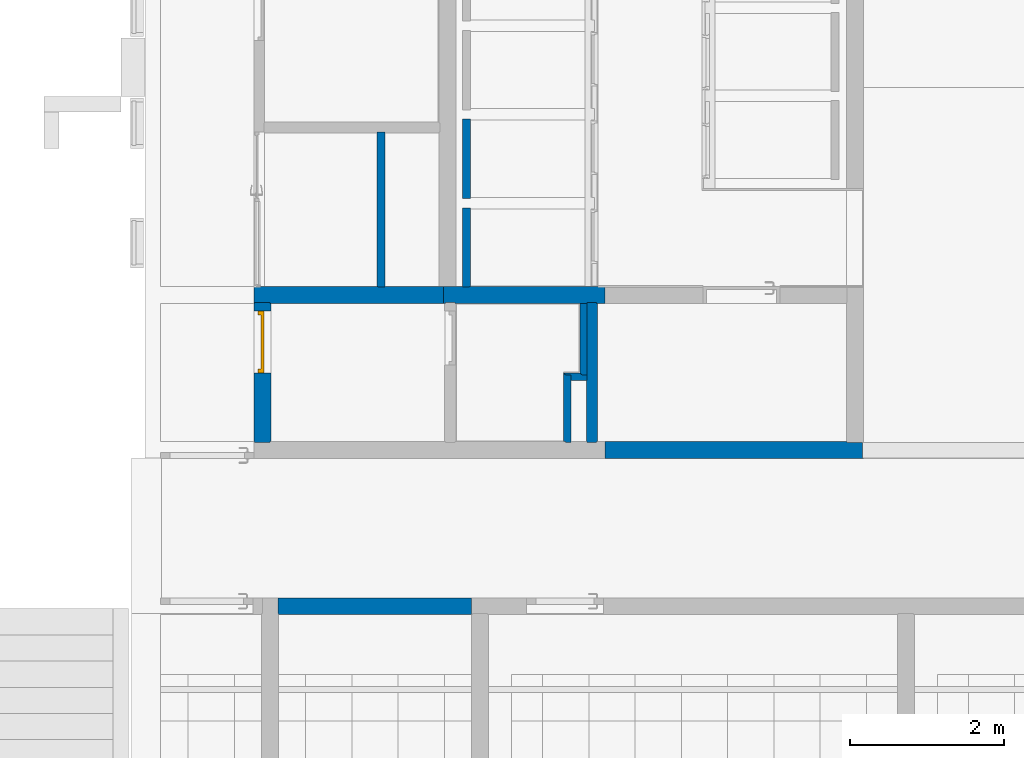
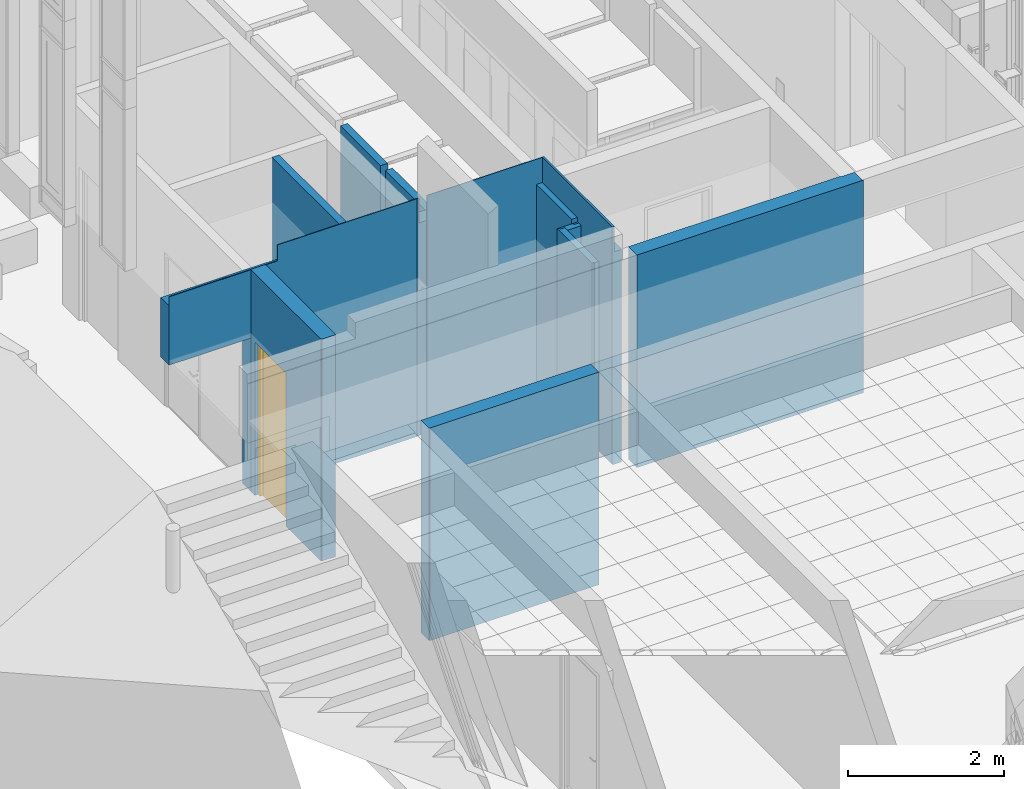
# One storey, part 116 of 246: 12 walls, 1 door, 2 openings.
"""IFC2X3 building model written with IfcOpenShell, lengths in millimetres."""

from ifc_helpers import new_model, entity, si_unit, converted_unit, derived_unit, money_unit, direction, frame, origin_with_axes, place, context, subcontext, project, spatial, faceted_brep, material, material_list, type_object, element, fill, save


model = new_model("IFC2X3")

# Units and contexts
model_context = context("Model", 3, precision=0.01, world=origin_with_axes(), true_north=direction((0.0, 1.0)))
body_context = subcontext(model_context, "Body", "Model", "MODEL_VIEW")
ifc_project = project(units=[si_unit("LENGTHUNIT", "METRE", prefix="MILLI"), si_unit("AREAUNIT", "SQUARE_METRE"), si_unit("VOLUMEUNIT", "CUBIC_METRE"), converted_unit("PLANEANGLEUNIT", "DEGREE", entity("IfcPlaneAngleMeasure", 0.0174532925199), si_unit("PLANEANGLEUNIT", "RADIAN"), dimensions=[0, 0, 0, 0, 0, 0, 0]), si_unit("SOLIDANGLEUNIT", "STERADIAN"), money_unit("EUR"), converted_unit("TIMEUNIT", "Year", entity("IfcTimeMeasure", 31556926.0), si_unit("TIMEUNIT", "SECOND"), dimensions=[0, 0, 1, 0, 0, 0, 0]), si_unit("MASSUNIT", "GRAM", prefix="KILO"), si_unit("THERMODYNAMICTEMPERATUREUNIT", "DEGREE_CELSIUS"), si_unit("LUMINOUSINTENSITYUNIT", "LUMEN"), si_unit("ENERGYUNIT", "JOULE", prefix="MEGA"), derived_unit("THERMALCONDUCTANCEUNIT", [(si_unit("POWERUNIT", "WATT"), 1), (si_unit("LENGTHUNIT", "METRE"), -1), (si_unit("THERMODYNAMICTEMPERATUREUNIT", "KELVIN"), -1)]), derived_unit("SPECIFICHEATCAPACITYUNIT", [(si_unit("ENERGYUNIT", "JOULE"), 1), (si_unit("MASSUNIT", "GRAM", prefix="KILO"), -1), (si_unit("THERMODYNAMICTEMPERATUREUNIT", "KELVIN"), -1)]), derived_unit("MASSDENSITYUNIT", [(si_unit("MASSUNIT", "GRAM", prefix="KILO"), 1), (si_unit("VOLUMEUNIT", "CUBIC_METRE"), -1)])], contexts=[model_context])

# Site, building, storey
site_placement = place(None, origin_with_axes())
site = spatial("IfcSite", under=ifc_project, at=site_placement, Name="L.Koidula tn 11b", CompositionType="ELEMENT")
building_placement = place(site_placement, origin_with_axes())
building = spatial("IfcBuilding", under=site, at=building_placement, Name="Rakvere Riigigümnaasium", CompositionType="ELEMENT")
storey_placement = place(building_placement, origin_with_axes())
storey = spatial("IfcBuildingStorey", under=building, at=storey_placement, Name="1.korrus 0,00", CompositionType="ELEMENT", Elevation=0.0)

# Wall
ifc_material_1 = material(Name="siseviimistlus-seinad")
ifc_material_2 = material(Name="Betoon element / plaat")
ifc_material_list_1 = material_list([ifc_material_1, ifc_material_2, ifc_material_1])
wall_type_1 = type_object("IfcWallType", Name="SS-01-2 220", PredefinedType="NOTDEFINED")
wall_1_placement = place(storey_placement, frame((41260.0009795, 17110.4555123, 0.0), z_axis=(0.0, 0.0, 1.0), x_axis=(-1.0, 0.0, 0.0)))
element("IfcWall", 1, at=wall_1_placement, inside=storey, type_object=wall_type_1, material=ifc_material_list_1, Name="Sisesein", context=body_context, shape_type="Brep", body=[
    faceted_brep([(2064.99369389, 0.0, 3720.0), (2089.9936915, 0.0, 3720.0), (2089.9936915, 10.0, 3720.0), (2064.99369389, 10.0, 3720.0), (2064.99369389, 0.0, 0.0), (2089.9936915, 0.0, 0.0), (2089.9936915, 10.0, 0.0), (2064.99369389, 10.0, 0.0)], [[[0, 1, 2, 3]], [[4, 5, 1, 0]], [[2, 1, 5, 6]], [[3, 2, 6, 7]], [[4, 0, 3, 7]], [[7, 6, 5, 4]]]),
    faceted_brep([(1944.99369389, 0.0, 3720.0), (1944.99369389, 10.0, 3720.0), (229.993662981, 10.0, 3720.0), (229.993662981, 0.0, 3720.0), (1944.99369389, 0.0, 0.0), (1944.99369389, 10.0, 0.0), (229.993662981, 10.0, 0.0), (229.993662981, 0.0, 0.0)], [[[0, 1, 2, 3]], [[1, 0, 4, 5]], [[1, 5, 6, 2]], [[7, 3, 2, 6]], [[4, 0, 3, 7]], [[5, 4, 7, 6]]]),
    faceted_brep([(109.993662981, 0.0, 3325.0), (0.0, 0.0, 3325.0), (0.0, 0.0, 0.0), (109.993662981, 0.0, 0.0), (0.0, 10.0, 3325.0), (109.993662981, 10.0, 3325.0), (0.0, 10.0, 0.0), (109.993662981, 10.0, 0.0)], [[[0, 1, 2, 3]], [[4, 1, 0, 5]], [[1, 4, 6, 2]], [[7, 3, 2, 6]], [[5, 0, 3, 7]], [[4, 5, 7, 6]]]),
    faceted_brep([(0.0, -200.0, 3325.0), (0.0, -200.0, 0.0), (2089.9936915, -200.0, 0.0), (2089.9936915, -200.0, 3325.0), (0.0, 0.0, 3325.0), (0.0, 0.0, 0.0), (2089.9936915, 0.0, 0.0), (2089.9936915, -3.94920256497e-05, 3325.0), (209.999935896, -3.94920256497e-05, 3325.0)], [[[0, 1, 2, 3]], [[0, 4, 5, 1]], [[5, 6, 2, 1]], [[7, 3, 2, 6]], [[8, 4, 0, 3, 7]], [[8, 7, 6, 5, 4]]]),
    faceted_brep([(131.993662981, -210.0, 3325.0), (0.0, -210.0, 3325.0), (0.0, -210.0, 0.0), (1755.0009436, -210.0, 0.0), (1755.0009436, -210.0, 3325.0), (226.993662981, -210.0, 3325.0), (226.993662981, -210.0, 2400.0), (131.993662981, -210.0, 2400.0), (0.0, -200.0, 3325.0), (131.993662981, -200.0, 3325.0), (0.0, -200.0, 0.0), (1755.0009436, -200.0, 0.0), (1755.0009436, -200.0, 3325.0), (226.993662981, -200.0, 3325.0), (226.993662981, -200.0, 2400.0), (131.993662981, -200.0, 2400.0)], [[[0, 1, 2, 3, 4, 5, 6, 7]], [[8, 1, 0, 9]], [[1, 8, 10, 2]], [[10, 11, 3, 2]], [[12, 4, 3, 11]], [[13, 5, 4, 12]], [[5, 13, 14, 6]], [[15, 7, 6, 14]], [[9, 0, 7, 15]], [[8, 9, 15, 14, 13, 12, 11, 10]]]),
    faceted_brep([(2089.9936915, -210.0, 3325.0), (1846.5009436, -210.0, 3325.0), (1846.5009436, -210.0, 0.0), (2089.9936915, -210.0, 0.0), (1846.5009436, -200.0, 3325.0), (2089.9936915, -200.0, 3325.0), (1846.5009436, -200.0, 0.0), (2089.9936915, -200.0, 0.0)], [[[0, 1, 2, 3]], [[4, 1, 0, 5]], [[1, 4, 6, 2]], [[6, 7, 3, 2]], [[5, 0, 3, 7]], [[4, 5, 7, 6]]]),
])

# Wall, opening
wall_2_placement = place(storey_placement, frame((39170.007288, 17110.4555123, 0.0), z_axis=(0.0, 0.0, 1.0), x_axis=(-1.0, 0.0, 0.0)))
wall_2 = element("IfcWall", 2, at=wall_2_placement, inside=storey, type_object=wall_type_1, material=ifc_material_list_1, Name="Sisesein", context=body_context, shape_type="Brep", body=[
    faceted_brep([(2250.00723728, 1.18162937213e-05, 3470.0), (2070.0072867, 1.18162937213e-05, 3470.0), (2070.0072867, 1.18162937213e-05, 3720.0), (0.0, 0.0, 3720.0), (0.0, 0.0, 0.0), (2250.00723728, 0.0, 0.0), (2250.00723728, 10.00000065, 3470.0), (2070.0072867, 10.00000065, 3470.0), (2070.0072867, 10.00000065, 3719.99998381), (0.0, 10.0, 3720.0), (0.0, 10.0, 0.0), (2250.00723728, 10.0, 0.0)], [[[0, 1, 2, 3, 4, 5]], [[1, 0, 6, 7]], [[8, 2, 1, 7]], [[2, 8, 9, 3]], [[4, 3, 9, 10]], [[11, 5, 4, 10]], [[6, 0, 5, 11]], [[7, 6, 11, 10, 9, 8]]]),
    faceted_brep([(2460.00723728, 1.18162937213e-05, 2400.0), (3670.00723586, 8.17265188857e-06, 2400.0), (3670.00723586, 1.18162937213e-05, 3470.0), (2450.00723728, 1.18162937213e-05, 3470.0), (2450.00723728, 0.0, 0.0), (2460.00723728, 0.0, 0.0), (2460.00723728, 10.00000065, 2400.0), (3670.00723586, 10.0000004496, 2400.0), (3670.00723586, 10.00000065, 3470.0), (2450.00723728, 10.00000065, 3470.0), (2450.00723728, 10.0, 0.0), (2460.00723728, 10.0, 0.0)], [[[0, 1, 2, 3, 4, 5]], [[1, 0, 6, 7]], [[1, 7, 8, 2]], [[3, 2, 8, 9]], [[9, 10, 4, 3]], [[11, 5, 4, 10]], [[0, 5, 11, 6]], [[6, 11, 10, 9, 8, 7]]]),
    faceted_brep([(2460.00723728, -200.0, 2400.0), (3670.00723586, -200.0, 2400.0), (3670.00723586, -200.0, 3325.0), (0.0, -200.0, 3325.0), (0.0, -200.0, 0.0), (2460.00723728, -200.0, 0.0), (2460.00723728, -3.94920256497e-05, 2400.0), (3670.00723586, -2.85055214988e-05, 2400.0), (3670.00723586, -3.94920256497e-05, 3325.0), (0.0, -3.94920256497e-05, 3325.0), (0.0, 0.0, 0.0), (2460.00723728, 0.0, 0.0)], [[[0, 1, 2, 3, 4, 5]], [[1, 0, 6, 7]], [[1, 7, 8, 2]], [[3, 2, 8, 9]], [[9, 10, 4, 3]], [[11, 5, 4, 10]], [[0, 5, 11, 6]], [[6, 11, 10, 9, 8, 7]]]),
    faceted_brep([(2460.00723728, -210.0, 2400.0), (3670.00723586, -210.0, 2400.0), (3670.00723586, -210.0, 3325.0), (851.500002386, -210.0, 3325.0), (851.500002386, -210.0, 0.0), (2460.00723728, -210.0, 0.0), (2460.00723728, -200.0, 2400.0), (3670.00723586, -200.0, 2400.0), (3670.00723586, -200.0, 3325.0), (851.500002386, -200.0, 3325.0), (851.500002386, -200.0, 0.0), (2460.00723728, -200.0, 0.0)], [[[0, 1, 2, 3, 4, 5]], [[1, 0, 6, 7]], [[1, 7, 8, 2]], [[3, 2, 8, 9]], [[9, 10, 4, 3]], [[11, 5, 4, 10]], [[0, 5, 11, 6]], [[6, 11, 10, 9, 8, 7]]]),
    faceted_brep([(760.000002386, -210.0, 3325.0), (0.0, -210.0, 3325.0), (0.0, -210.0, 0.0), (760.000002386, -210.0, 0.0), (0.0, -200.0, 3325.0), (760.000002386, -200.0, 3325.0), (0.0, -200.0, 0.0), (760.000002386, -200.0, 0.0)], [[[0, 1, 2, 3]], [[4, 1, 0, 5]], [[1, 4, 6, 2]], [[7, 3, 2, 6]], [[5, 0, 3, 7]], [[4, 5, 7, 6]]]),
])
opening_1_placement = place(wall_2_placement, frame((3065.00723657, 0.0, 0.0), z_axis=(0.0, 0.0, 1.0), x_axis=(1.0, 0.0, 0.0)))
element("IfcOpeningElement", 3, at=opening_1_placement, cuts=wall_2, Name="ava", context=body_context, shape_type="Brep", body=[
    faceted_brep([(604.999999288, 220.0, 0.0), (604.999999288, 220.0, 2400.0), (604.999999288, -440.0, 2400.0), (604.999999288, -440.0, 0.0), (-604.999999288, 220.0, 0.0), (-604.999999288, 220.0, 2400.0), (-604.999999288, -440.0, 2400.0), (-604.999999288, -440.0, 0.0)], [[[0, 1, 2, 3]], [[0, 4, 5, 1]], [[1, 5, 6, 2]], [[3, 2, 6, 7]], [[4, 0, 3, 7]], [[5, 4, 7, 6]]]),
])

# Wall, opening, door
wall_3_placement = place(storey_placement, frame((36710.0000507, 17110.4555123, 0.0), z_axis=(0.0, 0.0, 1.0), x_axis=(0.0, -1.0, 0.0)))
wall_3 = element("IfcWall", 4, at=wall_3_placement, inside=storey, type_object=wall_type_1, material=ifc_material_list_1, Name="Sisesein", context=body_context, shape_type="Brep", body=[
    faceted_brep([(909.999329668, 220.0, 0.0), (909.999329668, 220.0, 2400.0), (109.99932933, 220.0, 2400.0), (109.99932933, 220.0, 0.0), (10.0, 220.0, 0.0), (10.0, 220.0, 3470.0), (1799.97698206, 220.0, 3470.0), (1799.97698206, 220.0, 0.0), (909.999329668, 210.0, 0.0), (909.999329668, 210.0, 2400.0), (109.99932933, 210.0, 2400.0), (109.99932933, 210.0, 0.0), (10.0, 210.0, 0.0), (10.0, 210.0, 3470.0), (1799.97698206, 210.0, 3470.0), (1799.97698206, 210.0, 0.0)], [[[0, 1, 2, 3, 4, 5, 6, 7]], [[1, 0, 8, 9]], [[2, 1, 9, 10]], [[3, 2, 10, 11]], [[3, 11, 12, 4]], [[5, 4, 12, 13]], [[5, 13, 14, 6]], [[14, 15, 7, 6]], [[8, 0, 7, 15]], [[9, 8, 15, 14, 13, 12, 11, 10]]]),
    faceted_brep([(909.999329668, 210.0, 0.0), (909.999329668, 210.0, 2400.0), (109.99932933, 210.0, 2400.0), (109.99932933, 210.0, 0.0), (0.0, 210.0, 0.0), (1.18162937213e-05, 210.0, 3470.0), (1809.97698206, 210.0, 3470.0), (1809.97698206, 210.0, 0.0), (909.999329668, 50.0, 0.0), (909.999329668, 10.0, 0.0), (909.999329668, 10.0, 2400.0), (109.99932933, 10.0, 2400.0), (109.99932933, 50.0, 0.0), (109.99932933, 10.0, 0.0), (0.0, 10.0, 0.0), (1.18162937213e-05, 10.0, 3470.0), (1809.97698206, 10.0, 3470.0), (1809.97698206, 10.0, 0.0)], [[[0, 1, 2, 3, 4, 5, 6, 7]], [[1, 0, 8, 9, 10]], [[2, 1, 10, 11]], [[12, 3, 2, 11, 13]], [[3, 12, 13, 14, 4]], [[4, 14, 15, 5]], [[15, 16, 6, 5]], [[17, 7, 6, 16]], [[8, 0, 7, 17, 9]], [[14, 13, 11, 10, 9, 17, 16, 15]]]),
    faceted_brep([(909.999329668, 10.0, 0.0), (909.999329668, 10.0, 2400.0), (109.99932933, 10.0, 2400.0), (109.99932933, 10.0, 0.0), (10.0, 10.0, 0.0), (10.0, 10.0, 3470.0), (1799.97698206, 10.0, 3470.0), (1799.97698206, 10.0, 0.0), (909.999329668, 0.0, 0.0), (909.999329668, 0.0, 2400.0), (109.99932933, 0.0, 2400.0), (109.99932933, 0.0, 0.0), (10.0, 0.0, 0.0), (10.0, 0.0, 3470.0), (1799.97698206, 0.0, 3470.0), (1799.97698206, 0.0, 0.0)], [[[0, 1, 2, 3, 4, 5, 6, 7]], [[1, 0, 8, 9]], [[2, 1, 9, 10]], [[3, 2, 10, 11]], [[3, 11, 12, 4]], [[5, 4, 12, 13]], [[5, 13, 14, 6]], [[14, 15, 7, 6]], [[8, 0, 7, 15]], [[9, 8, 15, 14, 13, 12, 11, 10]]]),
])
opening_2_placement = place(wall_3_placement, frame((509.999329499, 0.0, 0.0), z_axis=(0.0, 0.0, 1.0), x_axis=(1.0, 0.0, 0.0)))
opening_2 = element("IfcOpeningElement", 5, at=opening_2_placement, cuts=wall_3, Name="SU-011", context=body_context, shape_type="Brep", body=[
    faceted_brep([(-400.000000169, 50.0, 0.0), (-400.000000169, 50.0, 2400.0), (-400.000000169, 440.0, 2400.0), (-400.000000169, 440.0, 0.0), (400.000000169, 50.0, 0.0), (400.000000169, 50.0, 2400.0), (400.000000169, 440.0, 2400.0), (400.000000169, 440.0, 0.0)], [[[0, 1, 2, 3]], [[0, 4, 5, 1]], [[1, 5, 6, 2]], [[3, 2, 6, 7]], [[4, 0, 3, 7]], [[5, 4, 7, 6]]]),
    faceted_brep([(-400.000000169, 50.0, 2400.0), (-400.000000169, 50.0, 0.0), (-400.000000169, -220.0, 0.0), (-400.000000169, -220.0, 2400.0), (400.000000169, 50.0, 2400.0), (400.000000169, 50.0, 0.0), (400.000000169, -220.0, 0.0), (400.000000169, -220.0, 2400.0)], [[[0, 1, 2, 3]], [[0, 4, 5, 1]], [[1, 5, 6, 2]], [[3, 2, 6, 7]], [[4, 0, 3, 7]], [[5, 4, 7, 6]]]),
])
door_style = type_object("IfcDoorStyle", Name="Door 23", ConstructionType="NOTDEFINED", OperationType="SINGLE_SWING_LEFT", ParameterTakesPrecedence=False, Sizeable=False)
door_placement = place(opening_2_placement, frame((-400.000000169, 0.0, 0.0), z_axis=(0.0, 0.0, 1.0), x_axis=(1.0, 0.0, 0.0)))
door = element("IfcDoor", 6, at=door_placement, inside=storey, type_object=door_style, Name="SU-011", ObjectType="DOOR", OverallHeight=2400.0, OverallWidth=800.0, context=body_context, shape_type="Brep", body=[
    faceted_brep([(750.000000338, 90.0, 0.0), (750.000000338, 50.0, 0.0), (750.000000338, 50.0, 2350.0), (750.000000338, 90.0, 2350.0), (762.000000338, 90.0, 0.0), (762.000000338, 130.0, 0.0), (800.000000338, 130.0, 0.0), (800.000000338, 50.0, 0.0), (800.000000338, 50.0, 2350.0), (762.000000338, 90.0, 2350.0), (800.000000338, 130.0, 2350.0), (762.000000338, 130.0, 2350.0)], [[[0, 1, 2, 3]], [[4, 5, 6, 7, 1, 0]], [[1, 7, 8, 2]], [[9, 3, 2, 8, 10, 11]], [[9, 4, 0, 3]], [[11, 5, 4, 9]], [[11, 10, 6, 5]], [[6, 10, 8, 7]]]),
    faceted_brep([(38.0, 90.0, 2350.0), (38.0, 130.0, 2350.0), (0.0, 130.0, 2350.0), (0.0, 50.0, 2350.0), (50.0, 50.0, 2350.0), (50.0, 90.0, 2350.0), (38.0, 90.0, 0.0), (38.0, 130.0, 0.0), (0.0, 130.0, 0.0), (0.0, 50.0, 0.0), (50.0, 50.0, 0.0), (50.0, 90.0, 0.0)], [[[0, 1, 2, 3, 4, 5]], [[0, 6, 7, 1]], [[7, 8, 2, 1]], [[2, 8, 9, 3]], [[3, 9, 10, 4]], [[5, 4, 10, 11]], [[5, 11, 6, 0]], [[6, 11, 10, 9, 8, 7]]]),
    faceted_brep([(762.000000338, 130.0, 2362.0), (38.0, 130.0, 2362.0), (38.0, 130.0, 2350.0), (0.0, 130.0, 2350.0), (0.0, 130.0, 2400.0), (800.000000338, 130.0, 2400.0), (800.000000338, 130.0, 2350.0), (762.000000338, 130.0, 2350.0), (762.000000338, 90.0, 2362.0), (38.0, 90.0, 2362.0), (38.0, 90.0, 2350.0), (50.0, 90.0, 2350.0), (50.0, 50.0, 2350.0), (0.0, 50.0, 2350.0), (0.0, 50.0, 2400.0), (800.000000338, 50.0, 2400.0), (800.000000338, 50.0, 2350.0), (762.000000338, 90.0, 2350.0), (750.000000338, 50.0, 2350.0), (750.000000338, 90.0, 2350.0)], [[[0, 1, 2, 3, 4, 5, 6, 7]], [[0, 8, 9, 1]], [[1, 9, 10, 2]], [[10, 11, 12, 13, 3, 2]], [[4, 3, 13, 14]], [[5, 4, 14, 15]], [[6, 5, 15, 16]], [[17, 7, 6, 16, 18, 19]], [[7, 17, 8, 0]], [[10, 9, 8, 17, 19, 11]], [[19, 18, 12, 11]], [[12, 18, 16, 15, 14, 13]]]),
    faceted_brep([(38.0, 130.0, 0.0), (762.000000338, 130.0, 0.0), (762.000000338, 90.0, 0.0), (38.0, 90.0, 0.0), (38.0, 130.0, 2362.0), (762.000000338, 130.0, 2362.0), (762.000000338, 90.0, 2362.0), (38.0, 90.0, 2362.0)], [[[0, 1, 2, 3]], [[0, 4, 5, 1]], [[1, 5, 6, 2]], [[3, 2, 6, 7]], [[4, 0, 3, 7]], [[5, 4, 7, 6]]]),
])
fill(opening_2, door)

# Walls
wall_4_placement = place(storey_placement, frame((41260.0009821, 15100.4785302, 0.0), z_axis=(0.0, 0.0, 1.0), x_axis=(1.0, 0.0, 0.0)))
element("IfcWall", 7, at=wall_4_placement, inside=storey, type_object=wall_type_1, material=ifc_material_list_1, Name="Sisesein", context=body_context, shape_type="Brep", body=[
    faceted_brep([(3139.99900896, 210.0, 3325.0), (3139.99900896, 210.0, 0.0), (0.0, 210.0, 0.0), (0.0, 210.0, 3325.0), (3139.99900896, 200.0, 3325.0), (3139.99900896, 200.0, 0.0), (0.0, 200.0, 0.0), (0.0, 200.0, 3325.0)], [[[0, 1, 2, 3]], [[0, 4, 5, 1]], [[1, 5, 6, 2]], [[7, 3, 2, 6]], [[4, 0, 3, 7]], [[4, 7, 6, 5]]]),
    faceted_brep([(3339.99900896, 200.0, 3325.0), (3339.99900896, 200.0, 0.0), (0.0, 200.0, 0.0), (0.0, 200.0, 3325.0), (3339.99900896, 0.0, 3325.0), (3339.99900896, 0.0, 0.0), (0.0, 0.0, 0.0), (0.0, -0.00308046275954, 3325.0), (2719.99885508, 0.0, 3325.0)], [[[0, 1, 2, 3]], [[0, 4, 5, 1]], [[1, 5, 6, 2]], [[7, 3, 2, 6]], [[8, 4, 0, 3, 7]], [[4, 8, 7, 6, 5]]]),
    faceted_brep([(2719.99885508, 0.0, 3325.0), (3349.99900896, 0.0, 3325.0), (3349.99900896, 0.0, 0.0), (0.0, 0.0, 0.0), (0.0, 0.0, 3325.0), (3349.99900896, -10.0, 3325.0), (0.0, -10.0, 3325.0), (3349.99900896, -10.0, 0.0), (0.0, -10.0, 0.0)], [[[0, 1, 2, 3, 4]], [[5, 1, 0, 4, 6]], [[1, 5, 7, 2]], [[2, 7, 8, 3]], [[6, 4, 3, 8]], [[5, 6, 8, 7]]]),
])
ifc_material_list_2 = material_list([ifc_material_1, ifc_material_2])
wall_type_2 = type_object("IfcWallType", Name="SS-01-1 210", PredefinedType="NOTDEFINED")
wall_5_placement = place(storey_placement, frame((39529.9999985, 13280.4416051, 0.0), z_axis=(0.0, 0.0, 1.0), x_axis=(-1.0, -2.68268180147e-07, 0.0)))
element("IfcWall", 8, at=wall_5_placement, inside=storey, type_object=wall_type_2, material=ifc_material_list_2, Name="Sisesein", context=body_context, shape_type="Brep", body=[
    faceted_brep([(2500.00005171, 200.0, 3325.0), (0.0, 200.0, 3325.0), (0.0, 200.0, 0.0), (2500.00005171, 200.0, 0.0), (0.0, 210.0, 3325.0), (2500.00005439, 210.0, 3325.0), (0.0, 210.0, 0.0), (2500.00005439, 210.0, 0.0)], [[[0, 1, 2, 3]], [[4, 1, 0, 5]], [[1, 4, 6, 2]], [[6, 7, 3, 2]], [[5, 0, 3, 7]], [[4, 5, 7, 6]]]),
    faceted_brep([(2509.99999805, 0.0, 3325.0), (2510.00005171, 200.0, 3325.0), (0.0, 200.0, 3325.0), (0.0, 0.0, 3325.0), (2509.99999805, 0.0, 0.0), (2510.00005171, 200.0, 0.0), (0.0, 200.0, 0.0), (0.0, 0.0, 0.0)], [[[0, 1, 2, 3]], [[1, 0, 4, 5]], [[2, 1, 5, 6]], [[2, 6, 7, 3]], [[0, 3, 7, 4]], [[6, 5, 4, 7]]]),
])
ifc_material_3 = material(Name="Krohv")
ifc_material_4 = material(Name="Silikaat plokk")
ifc_material_list_3 = material_list([ifc_material_3, ifc_material_4, ifc_material_3])
wall_type_3 = type_object("IfcWallType", Name="SS-05 140", PredefinedType="NOTDEFINED")
wall_6_placement = place(storey_placement, frame((41030.0073165, 15100.4785302, 0.0), z_axis=(0.0, 0.0, 1.0), x_axis=(0.0, 1.0, 0.0)))
element("IfcWall", 9, at=wall_6_placement, inside=storey, type_object=wall_type_3, material=ifc_material_list_3, Name="Sisesein", context=body_context, shape_type="Brep", body=[
    faceted_brep([(1003.47698206, 0.0, 3255.0), (1094.97698206, 0.0, 3255.0), (1094.97698206, 0.0, 0.0), (1999.97698206, 0.0, 0.0), (1999.97698206, 0.0, 3720.0), (210.0, 0.0, 3720.0), (210.0, 0.0, 0.0), (1003.47698206, 0.0, 0.0), (1003.47698206, 10.0, 3255.0), (1094.97698206, 10.0, 3255.0), (1094.97698206, 10.0, 0.0), (1999.97698206, 10.0, 0.0), (1999.97698206, 10.0, 3720.0), (210.0, 10.0, 3720.0), (210.0, 10.0, 0.0), (1003.47698206, 10.0, 0.0)], [[[0, 1, 2, 3, 4, 5, 6, 7]], [[8, 9, 1, 0]], [[10, 2, 1, 9]], [[3, 2, 10, 11]], [[11, 12, 4, 3]], [[5, 4, 12, 13]], [[14, 6, 5, 13]], [[14, 15, 7, 6]], [[8, 0, 7, 15]], [[10, 9, 8, 15, 14, 13, 12, 11]]]),
    faceted_brep([(2009.97702155, -19.9937270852, 3325.0), (2009.97698206, -120.0, 3325.0), (2009.97698206, -120.0, 0.0), (2009.97698206, 0.0, 0.0), (2009.97698206, 0.0, 3720.0), (2009.97702155, -19.9937270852, 3720.0), (200.0, -120.0, 3325.0), (200.0, -19.9937270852, 3325.0), (200.0, -120.0, 0.0), (200.0, 0.0, 0.0), (200.0, 0.0, 3720.0), (200.0, -19.9937270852, 3720.0)], [[[0, 1, 2, 3, 4, 5]], [[6, 1, 0, 7]], [[1, 6, 8, 2]], [[3, 2, 8, 9]], [[4, 3, 9, 10]], [[11, 5, 4, 10]], [[7, 0, 5, 11]], [[7, 11, 10, 9, 8, 6]]]),
    faceted_brep([(1999.97698206, -120.0, 3325.0), (1999.97698206, -130.0, 3325.0), (1999.97698206, -130.0, 0.0), (1999.97698206, -120.0, 0.0), (210.0, -130.0, 3325.0), (210.0, -120.0, 3325.0), (210.0, -130.0, 0.0), (210.0, -120.0, 0.0)], [[[0, 1, 2, 3]], [[4, 1, 0, 5]], [[1, 4, 6, 2]], [[3, 2, 6, 7]], [[5, 0, 3, 7]], [[4, 5, 7, 6]]]),
])
ifc_material_5 = material(Name="Polükarbamiid")
ifc_material_6 = material(Name="Kipsplaat-erikõva")
ifc_material_7 = material(Name="Karkass")
ifc_material_list_4 = material_list([ifc_material_5, ifc_material_6, ifc_material_6, ifc_material_7])
wall_type_4 = type_object("IfcWallType", Name="SS-09-1 97", PredefinedType="NOTDEFINED")
wall_7_placement = place(storey_placement, frame((40720.0009822, 16200.4555123, 0.0), z_axis=(0.0, 0.0, 1.0), x_axis=(1.0, 0.0, 0.0)))
element("IfcWall", 10, at=wall_7_placement, inside=storey, type_object=wall_type_4, material=ifc_material_list_4, Name="Sisesein", context=body_context, shape_type="Brep", body=[
    faceted_brep([(218.506334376, 0.0, 3255.0), (5.0, 0.0, 3255.0), (5.0, -5.0, 3255.0), (218.506334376, -5.0, 3255.0), (218.506334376, 0.0, 0.0), (5.0, 0.0, 0.0), (5.0, -5.0, 0.0), (218.506334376, -5.0, 0.0)], [[[0, 1, 2, 3]], [[4, 5, 1, 0]], [[2, 1, 5, 6]], [[3, 2, 6, 7]], [[3, 7, 4, 0]], [[7, 6, 5, 4]]]),
    faceted_brep([(231.506334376, -5.0, 3255.0), (18.0, -5.0, 3255.0), (18.0, -18.0, 3255.0), (231.506334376, -18.0, 3255.0), (231.506334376, -5.0, 0.0), (18.0, -5.0, 0.0), (18.0, -18.0, 0.0), (231.506334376, -18.0, 0.0)], [[[0, 1, 2, 3]], [[4, 5, 1, 0]], [[2, 1, 5, 6]], [[3, 2, 6, 7]], [[3, 7, 4, 0]], [[7, 6, 5, 4]]]),
    faceted_brep([(244.006334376, -18.0, 3255.0), (30.5, -18.0, 3255.0), (30.5, -30.5, 3255.0), (244.006334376, -30.5, 3255.0), (244.006334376, -18.0, 0.0), (30.5, -18.0, 0.0), (30.5, -30.5, 0.0), (244.006334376, -30.5, 0.0)], [[[0, 1, 2, 3]], [[4, 5, 1, 0]], [[2, 1, 5, 6]], [[3, 2, 6, 7]], [[3, 7, 4, 0]], [[7, 6, 5, 4]]]),
    faceted_brep([(310.006334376, -30.5, 3255.0), (96.5, -30.5, 3255.0), (96.5, -96.5, 3255.0), (310.006334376, -96.5, 3255.0), (310.006334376, -30.5, 0.0), (96.5, -30.5, 0.0), (96.5, -96.5, 0.0), (310.006334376, -96.5, 0.0)], [[[0, 1, 2, 3]], [[4, 5, 1, 0]], [[2, 1, 5, 6]], [[3, 2, 6, 7]], [[3, 7, 4, 0]], [[7, 6, 5, 4]]]),
])
wall_8_placement = place(storey_placement, frame((40720.0009822, 15100.4785302, 0.0), z_axis=(0.0, 0.0, 1.0), x_axis=(0.0, 1.0, 0.0)))
element("IfcWall", 11, at=wall_8_placement, inside=storey, type_object=wall_type_4, material=ifc_material_list_4, Name="Sisesein", context=body_context, shape_type="Brep", body=[
    faceted_brep([(1099.97698206, 0.0, 3255.0), (210.0, 0.0, 3255.0), (210.0, -5.0, 3255.0), (1099.97698206, -5.0, 3255.0), (1099.97698206, 0.0, 0.0), (210.0, 0.0, 0.0), (210.0, -5.0, 0.0), (1099.97698206, -5.0, 0.0)], [[[0, 1, 2, 3]], [[4, 5, 1, 0]], [[2, 1, 5, 6]], [[3, 2, 6, 7]], [[3, 7, 4, 0]], [[7, 6, 5, 4]]]),
    faceted_brep([(1094.97698206, -5.0, 3255.0), (210.0, -5.0, 3255.0), (210.0, -18.0, 3255.0), (1094.97698206, -18.0, 3255.0), (1094.97698206, -5.0, 0.0), (210.0, -5.0, 0.0), (210.0, -18.0, 0.0), (1094.97698206, -18.0, 0.0)], [[[0, 1, 2, 3]], [[4, 5, 1, 0]], [[2, 1, 5, 6]], [[3, 2, 6, 7]], [[3, 7, 4, 0]], [[7, 6, 5, 4]]]),
    faceted_brep([(1081.97698206, -18.0, 3255.0), (210.0, -18.0, 3255.0), (210.0, -30.5, 3255.0), (1081.97698206, -30.5, 3255.0), (1081.97698206, -18.0, 0.0), (210.0, -18.0, 0.0), (210.0, -30.5, 0.0), (1081.97698206, -30.5, 0.0)], [[[0, 1, 2, 3]], [[4, 5, 1, 0]], [[2, 1, 5, 6]], [[3, 2, 6, 7]], [[3, 7, 4, 0]], [[7, 6, 5, 4]]]),
    faceted_brep([(1069.47698206, -30.5, 3255.0), (200.0, -30.5, 3255.0), (200.0, -96.5, 3255.0), (1069.47698206, -96.5, 3255.0), (1069.47698206, -30.5, 0.0), (200.0, -30.5, 0.0), (200.0, -96.5, 0.0), (1069.47698206, -96.5, 0.0)], [[[0, 1, 2, 3]], [[4, 5, 1, 0]], [[2, 1, 5, 6]], [[3, 2, 6, 7]], [[3, 7, 4, 0]], [[7, 6, 5, 4]]]),
])
wall_9_placement = place(storey_placement, frame((40933.5073165, 16200.4555123, 0.0), z_axis=(0.0, 0.0, 1.0), x_axis=(0.0, 1.0, 0.0)))
element("IfcWall", 12, at=wall_9_placement, inside=storey, type_object=wall_type_4, material=ifc_material_list_4, Name="Sisesein", context=body_context, shape_type="Brep", body=[
    faceted_brep([(0.0, 0.0, 3255.0), (0.0, 0.0, 0.0), (0.0, -5.0, 0.0), (0.0, -5.00000014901, 3255.0), (0.0, -5.00000014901, 3325.00000065), (0.0, 0.0, 3325.00000065), (900.0, 0.0, 3325.0), (900.0, 0.0, 0.0), (900.0, -5.0, 0.0), (900.0, -5.0, 3325.0)], [[[0, 1, 2, 3, 4, 5]], [[1, 0, 5, 6, 7]], [[2, 1, 7, 8]], [[3, 2, 8, 9, 4]], [[6, 5, 4, 9]], [[7, 6, 9, 8]]]),
    faceted_brep([(-5.0, -5.00000014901, 3255.0), (-5.0, -18.0, 3255.0), (0.0, -18.0, 3255.0), (0.0, -5.00000014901, 3255.0), (-5.0, -18.0, 0.0), (-5.0, -5.0, 0.0), (900.0, -18.0, 0.0), (900.0, -18.0, 3325.0), (0.0, -18.0, 3325.00000065), (0.0, -5.00000014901, 3325.00000065), (900.0, -5.0, 3325.0), (900.0, -5.0, 0.0)], [[[0, 1, 2, 3]], [[4, 1, 0, 5]], [[1, 4, 6, 7, 8, 2]], [[3, 2, 8, 9]], [[5, 0, 3, 9, 10, 11]], [[4, 5, 11, 6]], [[11, 10, 7, 6]], [[10, 9, 8, 7]]]),
    faceted_brep([(-18.0, -18.0, 3255.0), (-18.0, -30.499999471, 3255.0), (0.0, -30.499999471, 3255.0), (0.0, -18.0, 3255.0), (-18.0, -30.5, 0.0), (-18.0, -18.0, 0.0), (900.0, -30.5, 0.0), (900.0, -30.5, 3325.0), (0.0, -30.499999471, 3325.00000065), (0.0, -18.0, 3325.00000065), (900.0, -18.0, 3325.0), (900.0, -18.0, 0.0)], [[[0, 1, 2, 3]], [[4, 1, 0, 5]], [[1, 4, 6, 7, 8, 2]], [[3, 2, 8, 9]], [[5, 0, 3, 9, 10, 11]], [[4, 5, 11, 6]], [[11, 10, 7, 6]], [[10, 9, 8, 7]]]),
    faceted_brep([(-30.5, -30.499999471, 3255.0), (-30.5, -96.5, 3255.0), (0.0, -96.5, 3255.0), (0.0, -30.499999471, 3255.0), (-30.5, -96.5, 0.0), (-30.5, -30.5, 0.0), (900.0, -96.5, 0.0), (900.0, -96.5, 3325.0), (0.0, -96.5, 3325.00000065), (0.0, -30.499999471, 3325.00000065), (900.0, -30.5, 3325.0), (900.0, -30.5, 0.0)], [[[0, 1, 2, 3]], [[4, 1, 0, 5]], [[1, 4, 6, 7, 8, 2]], [[3, 2, 8, 9]], [[5, 0, 3, 9, 10, 11]], [[4, 5, 11, 6]], [[11, 10, 7, 6]], [[10, 9, 8, 7]]]),
])
ifc_material_8 = material(Name="Keraamiline plaat")
ifc_material_9 = material(Name="Kipsplaat")
ifc_material_10 = material(Name="mineraalvill+karkass")
ifc_material_list_5 = material_list([ifc_material_8, ifc_material_9, ifc_material_9, ifc_material_10])
wall_type_5 = type_object("IfcWallType", Name="SS-09 107", PredefinedType="NOTDEFINED")
wall_10_placement = place(storey_placement, frame((38410.0072856, 17110.4555123, 0.0), z_axis=(0.0, 0.0, 1.0), x_axis=(0.0, 1.0, 0.0)))
element("IfcWall", 13, at=wall_10_placement, inside=storey, type_object=wall_type_5, material=ifc_material_list_5, Name="Sisesein", context=body_context, shape_type="Brep", body=[
    faceted_brep([(2209.98419495, 106.5, 3325.0), (2209.98419495, 91.5, 3325.0), (2209.98419495, 91.5, 0.0), (2209.98419495, 106.5, 0.0), (210.0, 91.5, 3325.0), (210.0, 106.5, 3325.0), (210.0, 91.5, 0.0), (210.0, 106.5, 0.0)], [[[0, 1, 2, 3]], [[4, 1, 0, 5]], [[1, 4, 6, 2]], [[3, 2, 6, 7]], [[5, 0, 3, 7]], [[4, 5, 7, 6]]]),
    faceted_brep([(2209.98419495, 91.5, 3325.0), (2209.98419495, 78.5, 3325.0), (2209.98419495, 78.5, 0.0), (2209.98419495, 91.5, 0.0), (200.0, 78.5, 3325.0), (200.0, 91.5, 3325.0), (200.0, 78.5, 0.0), (200.0, 91.5, 0.0)], [[[0, 1, 2, 3]], [[4, 1, 0, 5]], [[1, 4, 6, 2]], [[3, 2, 6, 7]], [[5, 0, 3, 7]], [[4, 5, 7, 6]]]),
    faceted_brep([(2209.98419495, 78.5, 3325.0), (2209.98419495, 66.0, 3325.0), (2209.98419495, 66.0, 0.0), (2209.98419495, 78.5, 0.0), (200.0, 66.0, 3325.0), (200.0, 78.5, 3325.0), (200.0, 66.0, 0.0), (200.0, 78.5, 0.0)], [[[0, 1, 2, 3]], [[4, 1, 0, 5]], [[1, 4, 6, 2]], [[3, 2, 6, 7]], [[5, 0, 3, 7]], [[4, 5, 7, 6]]]),
    faceted_brep([(2209.98419495, 66.0, 3325.0), (2209.98419495, 0.0, 3325.0), (2209.98419495, 0.0, 0.0), (2209.98419495, 66.0, 0.0), (200.0, 0.0, 3325.0), (200.0, 66.0, 3325.0), (200.0, 0.0, 0.0), (200.0, 66.0, 0.0)], [[[0, 1, 2, 3]], [[4, 1, 0, 5]], [[1, 4, 6, 2]], [[3, 2, 6, 7]], [[5, 0, 3, 7]], [[4, 5, 7, 6]]]),
])
ifc_material_list_6 = material_list([ifc_material_10, ifc_material_9, ifc_material_9, ifc_material_8])
wall_11_placement = place(storey_placement, frame((39520.0000359, 17110.4555123, 0.0), z_axis=(0.0, 0.0, 1.0), x_axis=(0.0, 1.0, 0.0)))
element("IfcWall", 14, at=wall_11_placement, inside=storey, type_object=wall_type_5, material=ifc_material_list_6, Name="Sisesein", context=body_context, shape_type="Brep", body=[
    faceted_brep([(1229.92016436, 106.5, 3325.0), (1229.92016436, 40.5, 3325.0), (1229.92016436, 40.5, 0.0), (1229.92016436, 106.5, 0.0), (200.0, 40.5, 3325.0), (200.0, 106.5, 3325.0), (200.0, 40.5, 0.0), (200.0, 106.5, 0.0)], [[[0, 1, 2, 3]], [[4, 1, 0, 5]], [[1, 4, 6, 2]], [[7, 3, 2, 6]], [[5, 0, 3, 7]], [[4, 5, 7, 6]]]),
    faceted_brep([(1229.92016436, 40.5, 3325.0), (1229.92016436, 28.0, 3325.0), (1229.92016436, 28.0, 0.0), (1229.92016436, 40.5, 0.0), (200.0, 28.0, 3325.0), (200.0, 40.5, 3325.0), (200.0, 28.0, 0.0), (200.0, 40.5, 0.0)], [[[0, 1, 2, 3]], [[4, 1, 0, 5]], [[1, 4, 6, 2]], [[7, 3, 2, 6]], [[5, 0, 3, 7]], [[4, 5, 7, 6]]]),
    faceted_brep([(1229.92016436, 28.0, 3325.0), (1229.92016436, 15.0, 3325.0), (1229.92016436, 15.0, 0.0), (1229.92016436, 28.0, 0.0), (200.0, 15.0, 3325.0), (200.0, 28.0, 3325.0), (200.0, 15.0, 0.0), (200.0, 28.0, 0.0)], [[[0, 1, 2, 3]], [[4, 1, 0, 5]], [[1, 4, 6, 2]], [[7, 3, 2, 6]], [[5, 0, 3, 7]], [[4, 5, 7, 6]]]),
    faceted_brep([(1229.92016436, 15.0, 3325.0), (1229.92016436, 0.0, 3325.0), (1229.92016436, 0.0, 0.0), (1229.92016436, 15.0, 0.0), (210.0, 0.0, 3325.0), (210.0, 15.0, 3325.0), (210.0, 0.0, 0.0), (210.0, 15.0, 0.0)], [[[0, 1, 2, 3]], [[4, 1, 0, 5]], [[1, 4, 6, 2]], [[7, 3, 2, 6]], [[5, 0, 3, 7]], [[4, 5, 7, 6]]]),
])
wall_12_placement = place(storey_placement, frame((39520.0000359, 18460.3756767, 0.0), z_axis=(0.0, 0.0, 1.0), x_axis=(0.0, 1.0, 0.0)))
element("IfcWall", 15, at=wall_12_placement, inside=storey, type_object=wall_type_5, material=ifc_material_list_6, Name="Sisesein", context=body_context, shape_type="Brep", body=[
    faceted_brep([(1030.01651065, 106.5, 3325.0), (1030.01651065, 40.5, 3325.0), (1030.01651065, 40.5, 0.0), (1030.01651065, 106.5, 0.0), (0.0, 40.5, 3325.0), (0.0, 106.5, 3325.0), (0.0, 40.5, 0.0), (0.0, 106.5, 0.0)], [[[0, 1, 2, 3]], [[4, 1, 0, 5]], [[1, 4, 6, 2]], [[7, 3, 2, 6]], [[5, 0, 3, 7]], [[4, 5, 7, 6]]]),
    faceted_brep([(1030.01651065, 40.5, 3325.0), (1030.01651065, 28.0, 3325.0), (1030.01651065, 28.0, 0.0), (1030.01651065, 40.5, 0.0), (0.0, 28.0, 3325.0), (0.0, 40.5, 3325.0), (0.0, 28.0, 0.0), (0.0, 40.5, 0.0)], [[[0, 1, 2, 3]], [[4, 1, 0, 5]], [[1, 4, 6, 2]], [[7, 3, 2, 6]], [[5, 0, 3, 7]], [[4, 5, 7, 6]]]),
    faceted_brep([(1030.01651065, 28.0, 3325.0), (1030.01651065, 15.0, 3325.0), (1030.01651065, 15.0, 0.0), (1030.01651065, 28.0, 0.0), (0.0, 15.0, 3325.0), (0.0, 28.0, 3325.0), (0.0, 15.0, 0.0), (0.0, 28.0, 0.0)], [[[0, 1, 2, 3]], [[4, 1, 0, 5]], [[1, 4, 6, 2]], [[7, 3, 2, 6]], [[5, 0, 3, 7]], [[4, 5, 7, 6]]]),
    faceted_brep([(1030.01651065, 15.0, 3325.0), (1030.01651065, 0.0, 3325.0), (1030.01651065, 0.0, 0.0), (1030.01651065, 15.0, 0.0), (0.0, 0.0, 3325.0), (0.0, 15.0, 3325.0), (0.0, 0.0, 0.0), (0.0, 15.0, 0.0)], [[[0, 1, 2, 3]], [[4, 1, 0, 5]], [[1, 4, 6, 2]], [[7, 3, 2, 6]], [[5, 0, 3, 7]], [[4, 5, 7, 6]]]),
])

save(model, "model.ifc")
